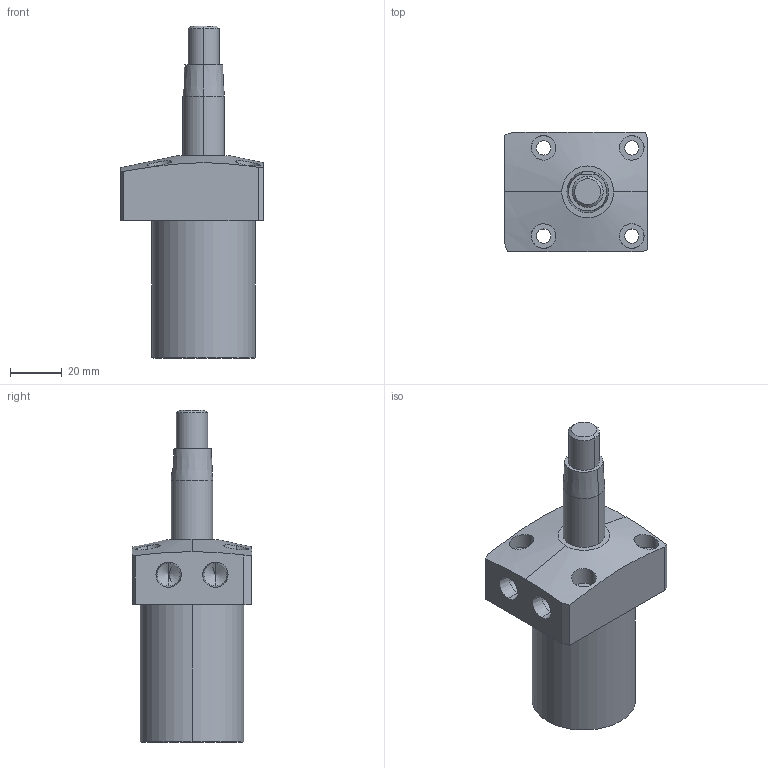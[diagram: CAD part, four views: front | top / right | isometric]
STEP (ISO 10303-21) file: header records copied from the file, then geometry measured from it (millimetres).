
FILE_DESCRIPTION (( 'STEP AP214' ), '1' );
FILE_NAME ('SC02-402-L-TOP.STEP', '2021-08-22T05:20:19', ( '' ), ( '' ), 'SwSTEP 2.0', 'SolidWorks 2019', '' );
FILE_SCHEMA (( 'AUTOMOTIVE_DESIGN' ));
Length unit declared in the file: millimetre
Products named in the file (3): SC02-40-BODY; SC02-402-L-TOP; 40-TAPER-PISTON
Assembly tree (2 placements, depth 2):
  SC02-402-L-TOP
    SC02-40-BODY
    40-TAPER-PISTON
Bounding box: 55 x 46 x 128 mm (x, y, z)
Volume: 122596.6 mm3; surface area: 25633.4 mm2
Topology: 2 solids, 2 shells, 73 faces, 166 edges, 104 vertices
Faces by surface type: cylinder 32, plane 25, cone 16
Entity records: 2468 total; most frequent: CARTESIAN_POINT 696, DIRECTION 368, ORIENTED_EDGE 324, EDGE_CURVE 162, AXIS2_PLACEMENT_3D 148, VERTEX_POINT 104, EDGE_LOOP 92, ADVANCED_FACE 73
